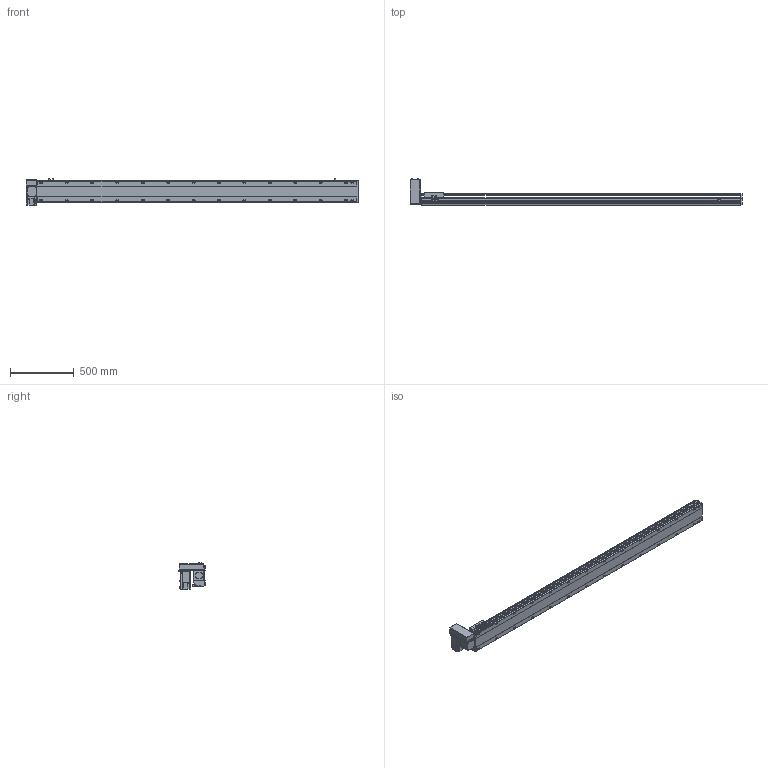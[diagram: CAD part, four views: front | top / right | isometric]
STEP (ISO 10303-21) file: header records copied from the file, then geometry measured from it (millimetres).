
FILE_DESCRIPTION(/* description */ ('STEP AP214'),/* implementation_level */ '2;1');
FILE_NAME(/* name */ 'PBS170-P40-S2250-RU-T75-C1-N(0)',/* time_stamp */ '2022-06-08T08:00:19+02:00',/* author */ ('License CC BY-ND 4.0'),/* organization */ ('CADENAS'),/* preprocessor_version */ 'ST-DEVELOPER v18.102',/* originating_system */ 'PARTsolutions',/* authorisation */ ' ');
FILE_SCHEMA (('AUTOMOTIVE_DESIGN {1 0 10303 214 3 1 1}'));
Length unit declared in the file: millimetre
Products named in the file (7): PBS170-P40-S2250-RU-T75-C1-N(0); PBS170_sensor; PBS170_plant; PBS170_sliser; T75-p1; PBS170T-RU_motors; PBS170-S2250()_body
Assembly tree (8 placements, depth 2):
  PBS170-P40-S2250-RU-T75-C1-N(0)
    PBS170_sensor  x3
    PBS170_plant
    PBS170_sliser
    T75-p1
    PBS170T-RU_motors
    PBS170-S2250()_body
Bounding box: 2613 x 206 x 205.3 mm (x, y, z)
Volume: 19894306.2 mm3; surface area: 2515826.5 mm2
Topology: 8 solids, 8 shells, 1178 faces, 3115 edges, 2030 vertices
Faces by surface type: plane 723, cylinder 387, cone 58, sphere 8, torus 2
Full cylindrical faces by diameter (mm): 3.242 x4, 4 x2, 4.4 x4, 4.5 x6, 4.917 x4, 6 x9, 6.647 x36, 7 x2, 7.5 x4, 8 x8, 8.5 x28, 10 x4, 10.5 x28, 11 x2, 30 x2, 40 x1, 70 x1
Entity records: 33866 total; most frequent: CARTESIAN_POINT 6385, DIRECTION 5720, ORIENTED_EDGE 5388, EDGE_CURVE 2694, AXIS2_PLACEMENT_3D 2017, VERTEX_POINT 1874, LINE 1686, VECTOR 1686
